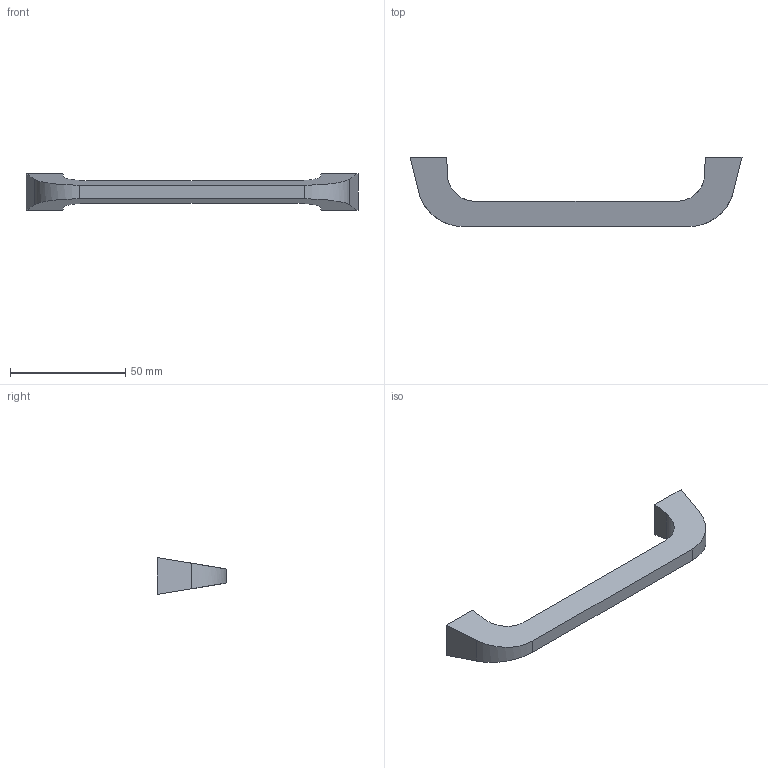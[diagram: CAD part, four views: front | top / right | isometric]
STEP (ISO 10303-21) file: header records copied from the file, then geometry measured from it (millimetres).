
FILE_DESCRIPTION( ( '' ), '1' );
FILE_NAME( 'C:/Documents and Settings/Nikhil/Desktop/Nik/Done/9145273.stp', '2013-10-23T07:37:58', ( '' ), ( '' ), ' ', ' ', ' ' );
FILE_SCHEMA( ( 'automotive_design' ) );
Length unit declared in the file: millimetre
Products named in the file (1): 1
Bounding box: 144 x 30 x 16 mm (x, y, z)
Volume: 17945.1 mm3; surface area: 7533.1 mm2
Topology: 1 solids, 1 shells, 20 faces, 48 edges, 32 vertices
Faces by surface type: plane 12, cylinder 8
Entity records: 1172 total; most frequent: DIRECTION 106, STYLED_ITEM 101, PRESENTATION_STYLE_ASSIGNMENT 101, CARTESIAN_POINT 101, COLOUR_RGB 101, ORIENTED_EDGE 96, EDGE_CURVE 48, CURVE_STYLE 48
